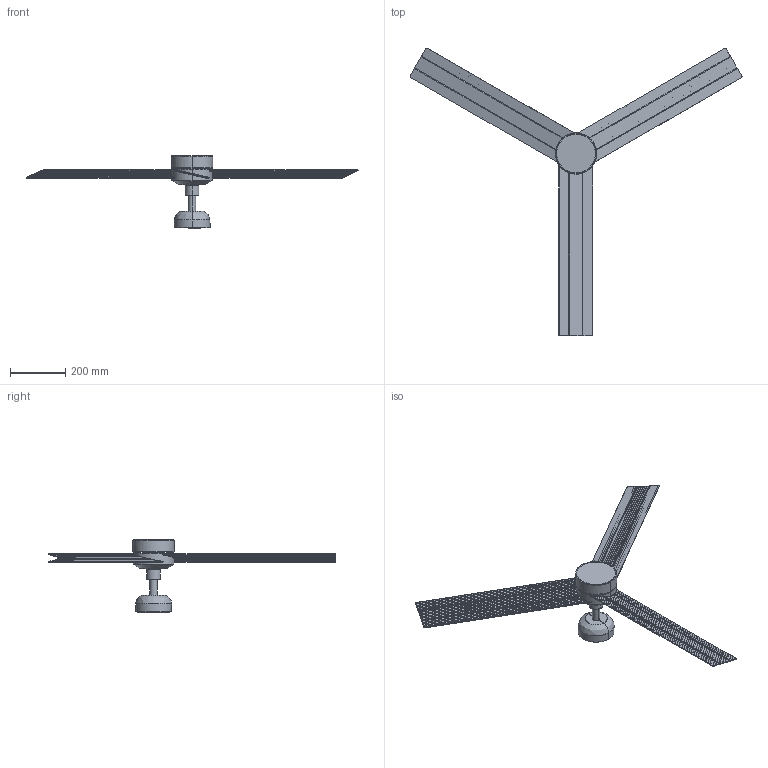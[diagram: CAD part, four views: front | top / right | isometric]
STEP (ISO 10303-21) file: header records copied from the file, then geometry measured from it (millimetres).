
FILE_DESCRIPTION(/* description */ (''),/* implementation_level */ '2;1');
FILE_NAME(/* name */ '34286-1TW.step',/* time_stamp */ '2024-04-16T15:30:35+02:00',/* author */ ('RenataManzini'),/* organization */ (''),/* preprocessor_version */ 'ST-DEVELOPER v20',/* originating_system */ 'AutoCAD Mechanical',/* authorisation */ '');
FILE_SCHEMA (('AUTOMOTIVE_DESIGN { 1 0 10303 214 3 1 1 }'));
Length unit declared in the file: millimetre
Products named in the file (5): Product; pieza_34285_34288_34289-1TW - Cruiser-485646-_3D_; pieza_34285_34288_34289-1TW - pala 1320_dwg-485643-_3D_; pieza_34285_34288_34289-1TW - pala 1320_dwg_ABYP____-485644-_3D_; pieza_34285_34288_34289-1TW - Cruiser without light-1060_dwg_ABW2C6__
___-485617-_3D_
Assembly tree (6 placements, depth 4):
  Product
    pieza_34285_34288_34289-1TW - Cruiser-485646-_3D_
      pieza_34285_34288_34289-1TW - pala 1320_dwg-485643-_3D_
        pieza_34285_34288_34289-1TW - pala 1320_dwg_ABYP____-485644-_3D_  x3
      pieza_34285_34288_34289-1TW - Cruiser without light-1060_dwg_ABW2C6__
___-485617-_3D_
Bounding box: 1201.32 x 1041.84 x 261.08 mm (x, y, z)
Volume: 820413.5 mm3; surface area: 764698.2 mm2
Topology: 3 solids, 7 shells, 389 faces, 1115 edges, 714 vertices
Faces by surface type: plane 258, cylinder 106, torus 17, bspline 4, cone 4
Entity records: 10094 total; most frequent: CARTESIAN_POINT 3333, ORIENTED_EDGE 1424, DIRECTION 1361, EDGE_CURVE 722, AXIS2_PLACEMENT_3D 476, VERTEX_POINT 457, LINE 409, VECTOR 409
